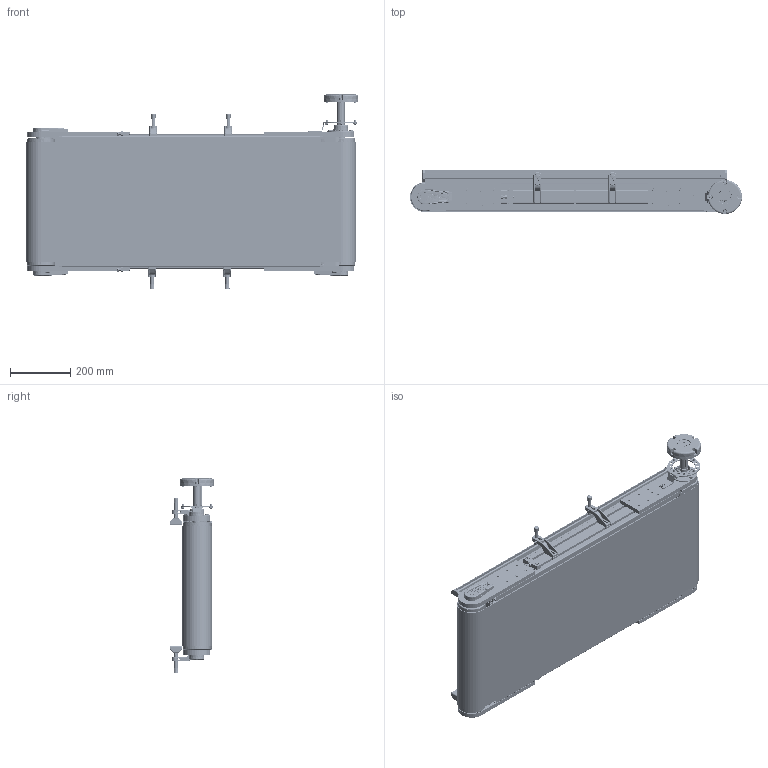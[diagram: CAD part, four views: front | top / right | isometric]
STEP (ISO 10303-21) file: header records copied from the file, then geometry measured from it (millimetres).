
FILE_DESCRIPTION (( 'STEP AP203' ), '1' );
FILE_NAME ('NASTRO_RETTILINEO_TAPPETO.step', '2026-04-30T10:59:30', ( 'Utente Windows' ), ( '' ), 'SwSTEP 2.0', 'SolidWorks 2024', '' );
FILE_SCHEMA (( 'CONFIG_CONTROL_DESIGN' ));
Length unit declared in the file: millimetre
Products named in the file (54): BLOCCO_PERNO_95_49; TAPPETO_STANDARD; 084.711.006_L2; 084.803.017; 084.802.068; 084.711.006_L1; VITI TSEI UNI 5933_M4x12 UNI 5933; CHIAVETTE_A 8x7x20 UNI 6604-69; BLOCCO_RINVIO_95_STANDARD_CON TENDINASTRO E CARTER; 084.802.060_Default<A macchina>; 084.802.062; 084.711.005; LAMIERA_STANDARD; 25UNI7435; VITI TE UNI 5739_M8x12 UNI 5739; 084.301.000 VITI ALUSIC_084.301.003; BLOCCO_TRAINO_95_STANDARD_49_DX_CON TENDINASTRO E SENZA CARTER; TELAIO_95_STANDARD_Default<A macchina>; SPONDA_Default<A macchina>; 084.812.003; 084.302.000 DADI ALUSIC 13x13-1_084.302.007; CHIAVETTE_A 8x7x70 UNI 6604-69; BLOCCO_TRAINO_95_STANDARD_CON TENDINASTRO E CARTER; 084.711.010; 084.802.034_084.802.034; VITI TCEI UNI 5931_M4x25 UNI 5931; 084.302.000 DADI ALUSIC 13x13-1_084.302.004; 084.803.003; DADI ESAGONALI NORMALI UNI 5588_M6 UNI 5588; RONDELLE FASCIA LARGA UNI 6593_8.4x32 UNI 6593; 084.712.002; VITI TSEI UNI 5933_M5x12 UNI 5933; 084.802.071; VITE_RONDELLA_M8X20; VITI TE UNI 5739_M8x16 UNI 5739; 084.812.002; 084.303.001; 084.302.060; NASTRO_RETTILINEO_TAPPETO; 084.711.006_PER CAVA 8 PERNO ALTO 1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
Assembly tree (123 placements, depth 4):
  NASTRO_RETTILINEO_TAPPETO
    TAPPETO_STANDARD
    TELAIO_95_STANDARD_Default<A macchina>
    LAMIERA_STANDARD
    RULLO_95_Default<A macchina>  x2
    BLOCCO_PERNO_95_49
      084.812.002
      084.810.003
      CHIAVETTE_A 8x7x70 UNI 6604-69
      CHIAVETTE_A 8x7x20 UNI 6604-69
      RONDELLE FASCIA LARGA UNI 6593_8.4x32 UNI 6593
      VITI TE UNI 5739_M8x16 UNI 5739
      25UNI7435
      30UNI7435
    BLOCCO_TRAINO_95_STANDARD_49_DX_CON TENDINASTRO E SENZA CARTER
      084.808.003_084.808.003
      084.302.060  x2
      084.802.034_084.802.034
      084.301.000 VITI ALUSIC_084.301.003  x6
      084.802.067_Default<A macchina>
      VITI TCEI UNI 5931_M4x25 UNI 5931  x2
      BLOCCO_BRACCIO_CH05P_CH05P
        084.808.013
        084.802.062
        084.802.060_Default<A macchina>
        VITI TE UNI 5739_M8x12 UNI 5739  x4
        VITI TE UNI 5739_M6x12 UNI 5739  x4
        084.803.017
        VITI TCEI UNI 5931_M6x12 UNI 5931  x4
    BLOCCO_PERNO_95_RINVIO  x3
      084.812.003
      084.810.003
      30UNI7435
    BLOCCO_TRAINO_95_STANDARD_CON TENDINASTRO E CARTER
      084.808.002_084.808.002
      084.302.060  x2
      084.802.019_084.802.019
      084.301.000 VITI ALUSIC_084.301.003  x6
      VITI TCEI UNI 5931_M4x25 UNI 5931  x2
      084.802.071
      084.802.068
      VITI TSEI UNI 5933_M4x12 UNI 5933  x2
    BLOCCO_RINVIO_95_STANDARD_CON TENDINASTRO E CARTER  x2
      084.808.002_084.808.002
      084.803.003
      084.302.060
      084.802.019_084.802.019
      VITI TSEI UNI 5933_M4x12 UNI 5933
      084.302.000 DADI ALUSIC 13x13-1_084.302.004
      084.301.000 VITI ALUSIC_084.301.003
      084.802.071
    SPONDA_Default<A macchina>  x2
    084.711.006_PER CAVA 8 PERNO ALTO 1  x4
      084.711.006_L1
      084.711.006_L2
      084.711.007
      084.711.005
      084.711.010
      DADI ESAGONALI NORMALI UNI 5588_M6 UNI 5588
    084.712.002  x4
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Bounding box: 1106.5 x 147 x 649.93 mm (x, y, z)
Volume: 10164643.5 mm3; surface area: 7108967.5 mm2
Topology: 184 solids, 187 shells, 7862 faces, 19894 edges, 12551 vertices
Faces by surface type: plane 3631, cylinder 2159, cone 761, bspline 692, torus 515, sphere 104
Entity records: 139079 total; most frequent: CARTESIAN_POINT 42029, ORIENTED_EDGE 19436, DIRECTION 17785, EDGE_CURVE 9718, AXIS2_PLACEMENT_3D 6236, VERTEX_POINT 6211, LINE 5313, VECTOR 5313
